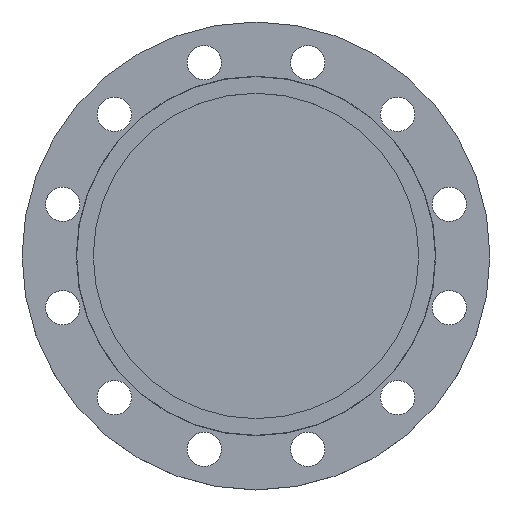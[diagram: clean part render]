
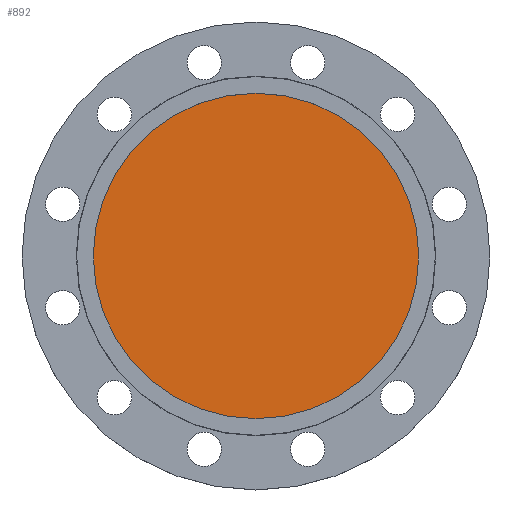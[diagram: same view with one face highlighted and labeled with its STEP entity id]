
A CAD part, top view. The second image highlights one B-rep face of the part: STEP entity #892.
In plain terms, the highlighted planar face has unit normal (0, 0, 1).
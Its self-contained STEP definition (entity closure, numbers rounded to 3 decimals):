
#2 = AXIS2_PLACEMENT_3D ( 'NONE', #124, #123, #122 ) ;
#13 = EDGE_CURVE ( 'NONE', #1254, #1387, #936, .T. ) ;
#21 = CIRCLE ( 'NONE', #2, 156.5 ) ;
#33 = CARTESIAN_POINT ( 'NONE',  ( -156.5, 0., -4.5 ) ) ;
#74 = AXIS2_PLACEMENT_3D ( 'NONE', #852, #851, #850 ) ;
#122 = DIRECTION ( 'NONE',  ( -1., 0., 0. ) ) ;
#123 = DIRECTION ( 'NONE',  ( 0., 0., -1. ) ) ;
#124 = CARTESIAN_POINT ( 'NONE',  ( 0., 0., -4.5 ) ) ;
#155 = CARTESIAN_POINT ( 'NONE',  ( 156.5, 0., -4.5 ) ) ;
#462 = DIRECTION ( 'NONE',  ( 1., 0., 0. ) ) ;
#463 = DIRECTION ( 'NONE',  ( 0., 0., 1. ) ) ;
#465 = CARTESIAN_POINT ( 'NONE',  ( 156.5, 0., -4.5 ) ) ;
#466 = PLANE ( 'NONE',  #1021 ) ;
#468 = FACE_OUTER_BOUND ( 'NONE', #1226, .T. ) ;
#850 = DIRECTION ( 'NONE',  ( -1., 0., 0. ) ) ;
#851 = DIRECTION ( 'NONE',  ( 0., 0., -1. ) ) ;
#852 = CARTESIAN_POINT ( 'NONE',  ( 0., 0., -4.5 ) ) ;
#892 = ADVANCED_FACE ( 'NONE', ( #468 ), #466, .T. ) ;
#936 = CIRCLE ( 'NONE', #74, 156.5 ) ;
#1021 = AXIS2_PLACEMENT_3D ( 'NONE', #465, #463, #462 ) ;
#1134 = ORIENTED_EDGE ( 'NONE', *, *, #1281, .F. ) ;
#1135 = ORIENTED_EDGE ( 'NONE', *, *, #13, .F. ) ;
#1226 = EDGE_LOOP ( 'NONE', ( #1134, #1135 ) ) ;
#1254 = VERTEX_POINT ( 'NONE', #155 ) ;
#1281 = EDGE_CURVE ( 'NONE', #1387, #1254, #21, .T. ) ;
#1387 = VERTEX_POINT ( 'NONE', #33 ) ;
